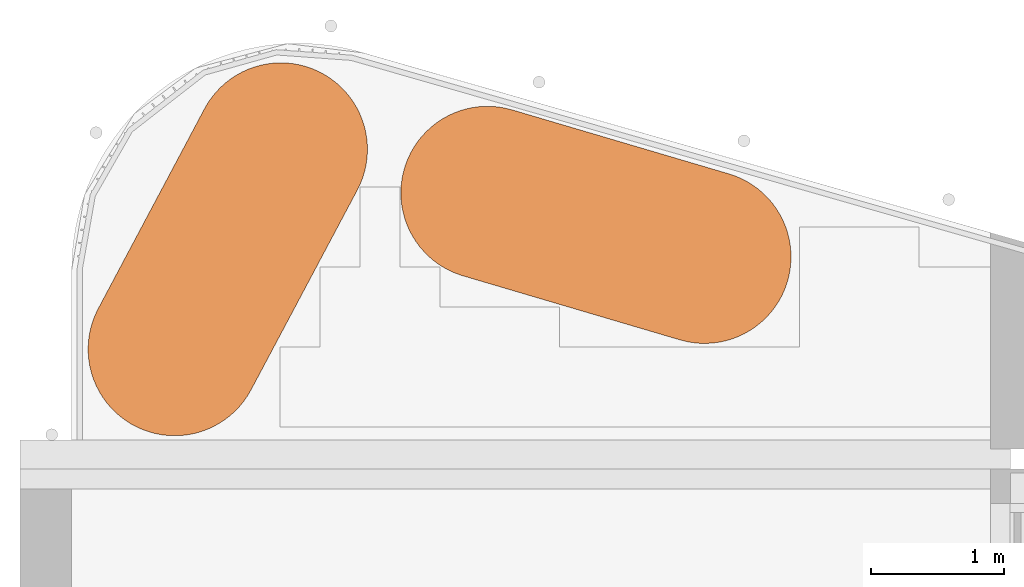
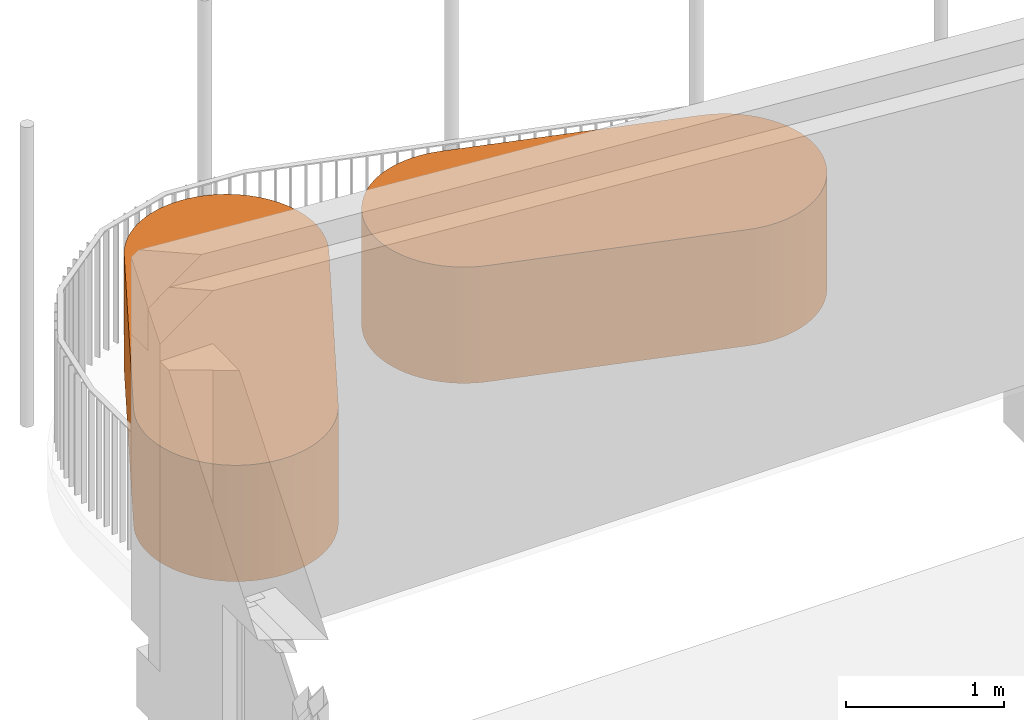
# One storey, part 10 of 10: 2 proxies.
"""IFC2X3 building model written with IfcOpenShell, lengths in millimetres."""

from ifc_helpers import new_model, entity, si_unit, converted_unit, derived_unit, direction, frame, frame_2d, origin, place, context, subcontext, project, spatial, polyline, circle_curve, parameter, trimmed, segment, composite_curve, outline, extrude, source, transform, mapped, material, type_object, type_shapes, element, save


model = new_model("IFC2X3")

# Units and contexts
model_context = context("Model", 3, precision=0.01, world=origin(), true_north=direction((6.12303176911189e-17, 1.0)))
body_context = subcontext(model_context, "Body", "Model", "MODEL_VIEW")
ifc_project = project(units=[si_unit("LENGTHUNIT", "METRE", prefix="MILLI"), si_unit("AREAUNIT", "SQUARE_METRE"), si_unit("VOLUMEUNIT", "CUBIC_METRE"), converted_unit("PLANEANGLEUNIT", "DEGREE", entity("IfcRatioMeasure", 0.0174532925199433), si_unit("PLANEANGLEUNIT", "RADIAN"), dimensions=[0, 0, 0, 0, 0, 0, 0]), si_unit("MASSUNIT", "GRAM", prefix="KILO"), derived_unit("MASSDENSITYUNIT", [(si_unit("MASSUNIT", "GRAM", prefix="KILO"), 1), (si_unit("LENGTHUNIT", "METRE"), -3)]), derived_unit("MOMENTOFINERTIAUNIT", [(si_unit("LENGTHUNIT", "METRE"), 4)]), si_unit("TIMEUNIT", "SECOND"), si_unit("FREQUENCYUNIT", "HERTZ"), si_unit("THERMODYNAMICTEMPERATUREUNIT", "DEGREE_CELSIUS"), derived_unit("THERMALTRANSMITTANCEUNIT", [(si_unit("MASSUNIT", "GRAM", prefix="KILO"), 1), (si_unit("THERMODYNAMICTEMPERATUREUNIT", "KELVIN"), -1), (si_unit("TIMEUNIT", "SECOND"), -3)]), derived_unit("VOLUMETRICFLOWRATEUNIT", [(si_unit("LENGTHUNIT", "METRE"), 3), (si_unit("TIMEUNIT", "SECOND"), -1)]), si_unit("ELECTRICCURRENTUNIT", "AMPERE"), si_unit("ELECTRICVOLTAGEUNIT", "VOLT"), si_unit("POWERUNIT", "WATT"), si_unit("FORCEUNIT", "NEWTON", prefix="KILO"), si_unit("ILLUMINANCEUNIT", "LUX"), si_unit("LUMINOUSFLUXUNIT", "LUMEN"), si_unit("LUMINOUSINTENSITYUNIT", "CANDELA"), derived_unit("USERDEFINED", [(si_unit("MASSUNIT", "GRAM", prefix="KILO"), -1), (si_unit("LENGTHUNIT", "METRE"), -2), (si_unit("TIMEUNIT", "SECOND"), 3), (si_unit("LUMINOUSFLUXUNIT", "LUMEN"), 1)]), derived_unit("LINEARVELOCITYUNIT", [(si_unit("LENGTHUNIT", "METRE"), 1), (si_unit("TIMEUNIT", "SECOND"), -1)]), si_unit("PRESSUREUNIT", "PASCAL"), derived_unit("USERDEFINED", [(si_unit("LENGTHUNIT", "METRE"), -2), (si_unit("MASSUNIT", "GRAM", prefix="KILO"), 1), (si_unit("TIMEUNIT", "SECOND"), -2)]), derived_unit("LINEARFORCEUNIT", [(si_unit("MASSUNIT", "GRAM", prefix="KILO"), 1), (si_unit("LENGTHUNIT", "METRE"), 1), (si_unit("TIMEUNIT", "SECOND"), -2), (si_unit("LENGTHUNIT", "METRE"), -1)]), derived_unit("PLANARFORCEUNIT", [(si_unit("MASSUNIT", "GRAM", prefix="KILO"), 1), (si_unit("LENGTHUNIT", "METRE"), 1), (si_unit("TIMEUNIT", "SECOND"), -2), (si_unit("LENGTHUNIT", "METRE"), -2)])], contexts=[model_context])

# Site, building, storey
site_placement = place(None, origin())
site = spatial("IfcSite", under=ifc_project, at=site_placement, Name="<Kadaster Gemeente>;<Kadaster nummer>;<Kadaster sectie>", CompositionType="ELEMENT")
building_placement = place(site_placement, origin())
building = spatial("IfcBuilding", under=site, at=building_placement, Name="JRCZ Middelburg", CompositionType="ELEMENT")
storey_placement = place(building_placement, frame((0.0, 0.0, 3700.0)))
storey = spatial("IfcBuildingStorey", under=building, at=storey_placement, Name="02 tweede verdieping", CompositionType="ELEMENT", Elevation=3700.0)

# Proxies
ifc_material = material(Name="Default wit")
building_element_proxy_type_1 = type_object("IfcBuildingElementProxyType", Name="waterbak2:waterbak", PredefinedType="NOTDEFINED", material=ifc_material)
shared_shape_1 = source(origin(), body_context, "Body", "SweptSolid", [
    extrude(outline(composite_curve([segment(polyline([(-850.0, -650.0), (850.0, -650.0)]), True, "CONTINUOUS"), segment(trimmed(circle_curve(frame_2d((850.0, 0.0), x_axis=(1.0, 0.0)), 650.0), [parameter(270.0)], [parameter(90.0000000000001)], True, "PARAMETER"), True, "CONTINUOUS"), segment(polyline([(850.0, 650.0), (-850.0, 650.0)]), True, "CONTINUOUS"), segment(trimmed(circle_curve(frame_2d((-850.0, 0.0), x_axis=(-1.0, 0.0)), 650.0), [parameter(270.0)], [parameter(90.0000000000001)], True, "PARAMETER"), True, "CONTINUOUS")], self_intersect=False)), frame((20517.7590794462, 25753.2463868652, 660.0), z_axis=(0.0, 0.0, 1.0), x_axis=(0.0, -1.0, 0.0)), (0.0, 0.0, 1.0), 900.0),
])
type_shapes(building_element_proxy_type_1, [shared_shape_1])
proxy_1_placement = place(storey_placement, frame((-18883.7852717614, 12942.6448164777, 700.0), z_axis=(0.0, 0.0, 1.0), x_axis=(0.882947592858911, -0.46947156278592, 0.0)))
element("IfcBuildingElementProxy", 1, at=proxy_1_placement, inside=storey, type_object=building_element_proxy_type_1, material=ifc_material, Name="waterbak2:waterbak", ObjectType="waterbak2:waterbak", context=body_context, shape_type="MappedRepresentation", body=[
    mapped(shared_shape_1, transform((0.0, 0.0, 0.0), scale=1.0)),
])
building_element_proxy_type_2 = type_object("IfcBuildingElementProxyType", Name="waterbak3:waterbak", PredefinedType="NOTDEFINED", material=ifc_material)
shared_shape_2 = source(origin(), body_context, "Body", "SweptSolid", [
    extrude(outline(composite_curve([segment(polyline([(-850.0, -650.0), (850.0, -650.0)]), True, "CONTINUOUS"), segment(trimmed(circle_curve(frame_2d((850.0, 0.0), x_axis=(1.0, 0.0)), 650.0), [parameter(270.0)], [parameter(90.0000000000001)], True, "PARAMETER"), True, "CONTINUOUS"), segment(polyline([(850.0, 650.0), (-850.0, 650.0)]), True, "CONTINUOUS"), segment(trimmed(circle_curve(frame_2d((-850.0, 0.0), x_axis=(-1.0, 0.0)), 650.0), [parameter(270.0)], [parameter(90.0000000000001)], True, "PARAMETER"), True, "CONTINUOUS")], self_intersect=False)), frame((20517.7590794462, 25753.2463868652, 660.0), z_axis=(0.0, 0.0, 1.0), x_axis=(0.0, -1.0, 0.0)), (0.0, 0.0, 1.0), 900.0),
])
type_shapes(building_element_proxy_type_2, [shared_shape_2])
proxy_2_placement = place(storey_placement, frame((32978.2268922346, -737.4280291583, 700.0), z_axis=(0.0, 0.0, 1.0), x_axis=(0.283131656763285, 0.95908105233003, 0.0)))
element("IfcBuildingElementProxy", 2, at=proxy_2_placement, inside=storey, type_object=building_element_proxy_type_2, material=ifc_material, Name="waterbak3:waterbak", ObjectType="waterbak3:waterbak", context=body_context, shape_type="MappedRepresentation", body=[
    mapped(shared_shape_2, transform((0.0, 0.0, 0.0), scale=1.0)),
])

save(model, "model.ifc")
